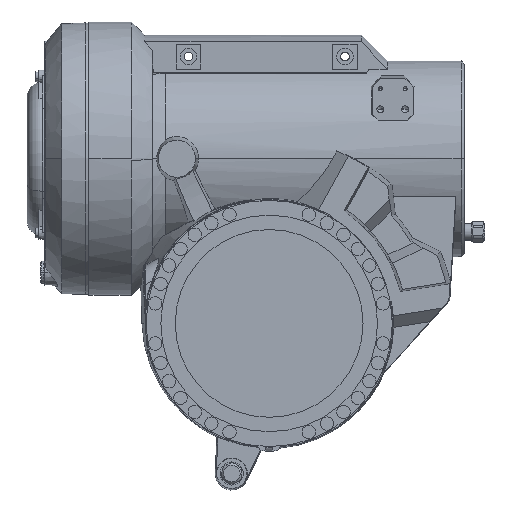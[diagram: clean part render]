
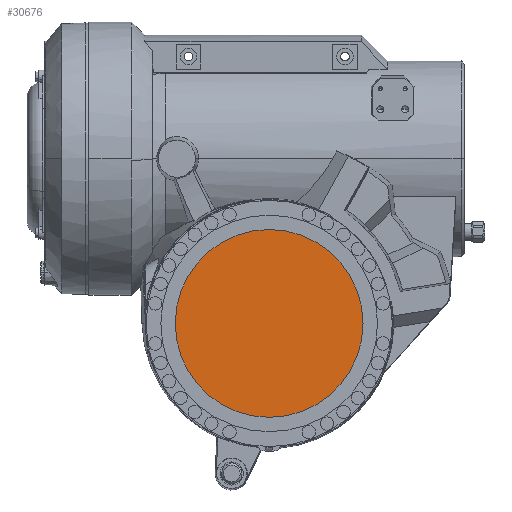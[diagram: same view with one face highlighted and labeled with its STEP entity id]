
A CAD part, front view. The second image highlights one B-rep face of the part: STEP entity #30676.
In plain terms, the highlighted planar face has unit normal (0, -1, 0).
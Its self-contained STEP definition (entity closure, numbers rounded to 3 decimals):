
#194 = CARTESIAN_POINT ( 'NONE',  ( 206., -233., 1790. ) ) ;
#3384 = EDGE_CURVE ( 'NONE', #27407, #34064, #40448, .T. ) ;
#3686 = CARTESIAN_POINT ( 'NONE',  ( 320., -233., 1790. ) ) ;
#6481 = AXIS2_PLACEMENT_3D ( 'NONE', #3686, #33754, #20056 ) ;
#8668 = PLANE ( 'NONE',  #16518 ) ;
#9065 = FACE_OUTER_BOUND ( 'NONE', #24835, .T. ) ;
#11653 = CARTESIAN_POINT ( 'NONE',  ( 320., -233., 1790. ) ) ;
#16518 = AXIS2_PLACEMENT_3D ( 'NONE', #21433, #34493, #19577 ) ;
#17393 = CARTESIAN_POINT ( 'NONE',  ( 434., -233., 1790. ) ) ;
#17408 = DIRECTION ( 'NONE',  ( 0., 0., -1. ) ) ;
#19577 = DIRECTION ( 'NONE',  ( 1., 0., 0. ) ) ;
#20056 = DIRECTION ( 'NONE',  ( 0., 0., -1. ) ) ;
#20656 = AXIS2_PLACEMENT_3D ( 'NONE', #11653, #33660, #17408 ) ;
#21433 = CARTESIAN_POINT ( 'NONE',  ( 320., -233., 1790. ) ) ;
#24835 = EDGE_LOOP ( 'NONE', ( #32909, #28996 ) ) ;
#27407 = VERTEX_POINT ( 'NONE', #17393 ) ;
#28996 = ORIENTED_EDGE ( 'NONE', *, *, #3384, .T. ) ;
#30310 = CIRCLE ( 'NONE', #6481, 114. ) ;
#30676 = ADVANCED_FACE ( 'NONE', ( #9065 ), #8668, .T. ) ;
#32082 = EDGE_CURVE ( 'NONE', #34064, #27407, #30310, .T. ) ;
#32909 = ORIENTED_EDGE ( 'NONE', *, *, #32082, .T. ) ;
#33660 = DIRECTION ( 'NONE',  ( 0., -1., 0. ) ) ;
#33754 = DIRECTION ( 'NONE',  ( 0., -1., 0. ) ) ;
#34064 = VERTEX_POINT ( 'NONE', #194 ) ;
#34493 = DIRECTION ( 'NONE',  ( 0., -1., 0. ) ) ;
#40448 = CIRCLE ( 'NONE', #20656, 114. ) ;
